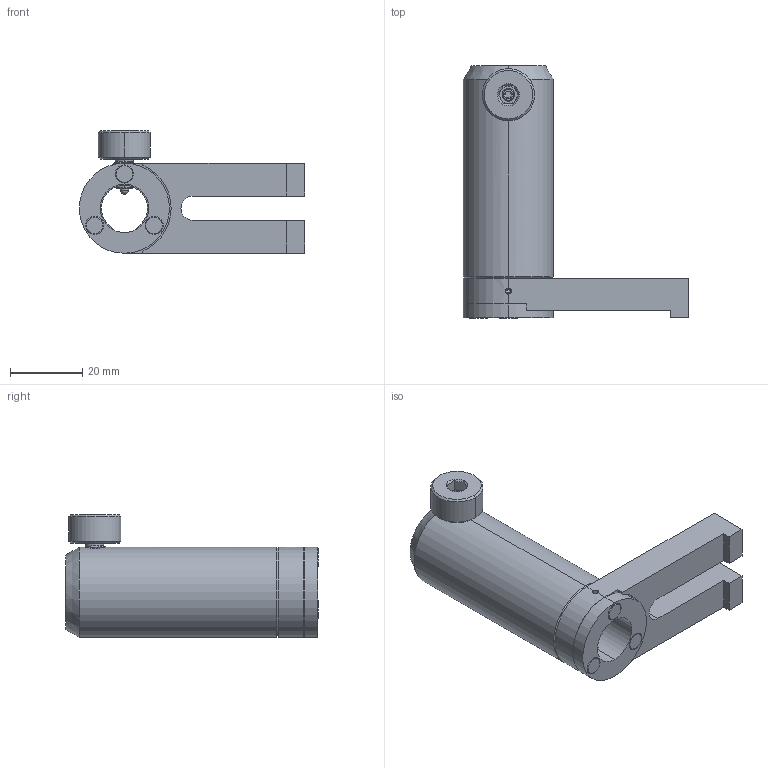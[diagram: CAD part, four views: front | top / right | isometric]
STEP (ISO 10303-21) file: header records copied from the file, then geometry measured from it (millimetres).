
FILE_DESCRIPTION((''),'2;1');
FILE_NAME('CA70-XC_ASM','2020-12-21T',('Administrator'),(''),'CREO PARAMETRIC BY PTC INC, 2015290','CREO PARAMETRIC BY PTC INC, 2015290','');
FILE_SCHEMA(('CONFIG_CONTROL_DESIGN'));
Length unit declared in the file: millimetre
Products named in the file (9): CAXX-XC_A2; CAXX-XC_A3; MAGNET_5X3; CA70-XC_A1; M6_SCREW_1; SPRING_3X6; M4X3_HS_2; M6_SCREW_2; CA70-XC_ASM
Assembly tree (10 placements, depth 2):
  CA70-XC_ASM
    CAXX-XC_A2
    CAXX-XC_A3
    MAGNET_5X3  x3
    CA70-XC_A1
    M6_SCREW_1
    SPRING_3X6
    M4X3_HS_2
    M6_SCREW_2
Bounding box: 62.5 x 70.13 x 33.99 mm (x, y, z)
Volume: 32620.1 mm3; surface area: 16658.2 mm2
Topology: 10 solids, 10 shells, 277 faces, 687 edges, 438 vertices
Faces by surface type: cylinder 122, plane 78, bspline 35, cone 28, torus 12, sphere 2
Entity records: 25577 total; most frequent: CARTESIAN_POINT 19491, ORIENTED_EDGE 1306, DIRECTION 1081, EDGE_CURVE 653, VERTEX_POINT 422, AXIS2_PLACEMENT_3D 397, EDGE_LOOP 289, VECTOR 287
